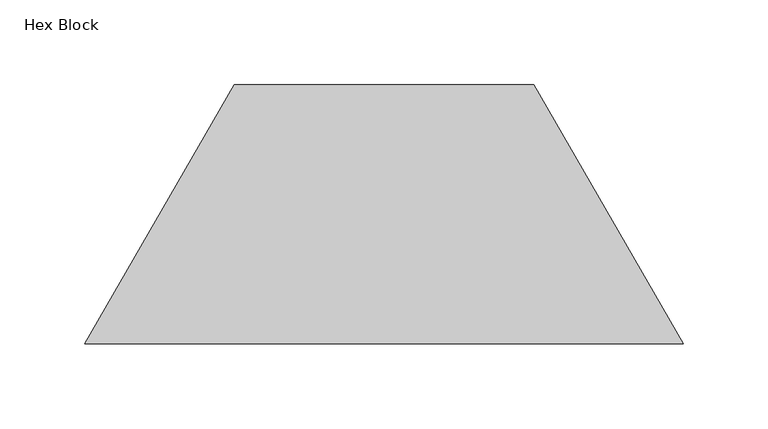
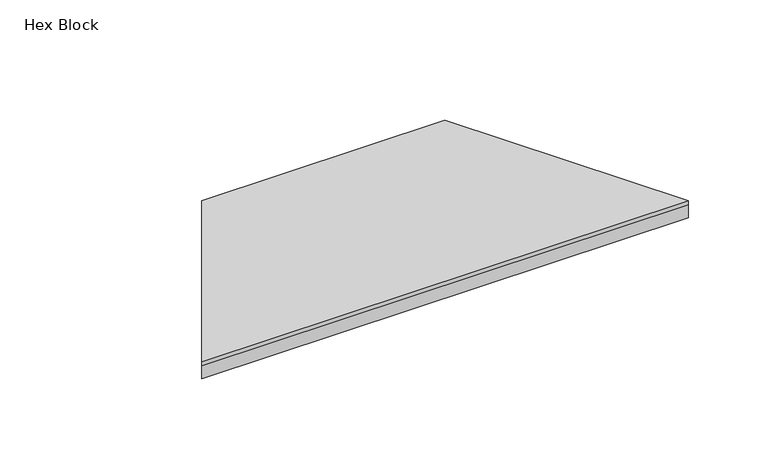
"""IFC4 building model written with IfcOpenShell, lengths in millimetres: proxy geometry, FilzFelt_Hex_Block : Hex Block."""

from ifc_helpers import new_model, si_unit, frame, origin, origin_with_axes, place, context, project, spatial, polyline, outline, extrude, source, transform, mapped, element, save


def hex_block_ed516149(model_context):
    return source(origin(), model_context, "Body", "SweptSolid", [
        extrude(outline(polyline([(-175.976362, 0.0), (-87.988181, 152.4), (87.988181, 152.4), (175.976362, 0.0), (-175.976362, 0.0)])), frame((0.0, 0.0, 10.0210937), z_axis=(0.0, 0.0, 1.0), x_axis=(1.0, 0.0, 0.0)), (0.0, 0.0, 1.0), 2.9765625),
        extrude(outline(polyline([(-175.976362, 0.0), (-87.988181, 152.4), (87.988181, 152.4), (175.976362, 0.0), (-175.976362, 0.0)])), origin_with_axes(), (0.0, 0.0, 1.0), 10.0210938),
    ])


if __name__ == "__main__":
    model = new_model("IFC4")
    model_context = context("Model", 3, world=origin())
    ifc_project = project(units=[si_unit("LENGTHUNIT", "METRE", prefix="MILLI")], contexts=[model_context])
    site = spatial("IfcSite", under=ifc_project)
    building = spatial("IfcBuilding", under=site)
    placement = place(None, origin())
    hex_block_shape = hex_block_ed516149(model_context)
    element("IfcBuildingElementProxy", 1, Name="FilzFelt_Hex_Block : Hex Block", ObjectType="FilzFelt_Hex_Block : Hex Block", at=placement, inside=building, context=model_context, shape_type="MappedRepresentation", body=[
        mapped(hex_block_shape, transform((0.0, 0.0, 0.0), x_axis=(1.0, 0.0, 0.0), y_axis=(0.0, 1.0, 0.0), z_axis=(0.0, 0.0, 1.0))),
    ])
    save(model, "model.ifc")
